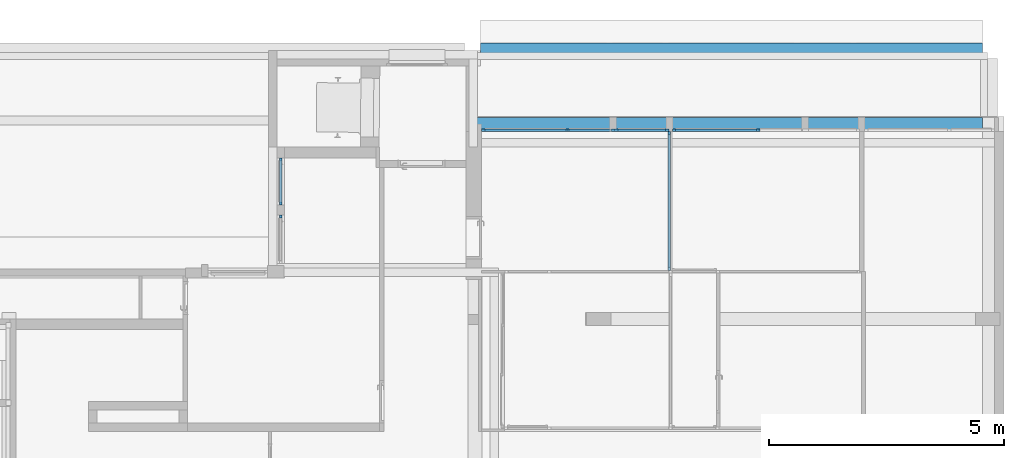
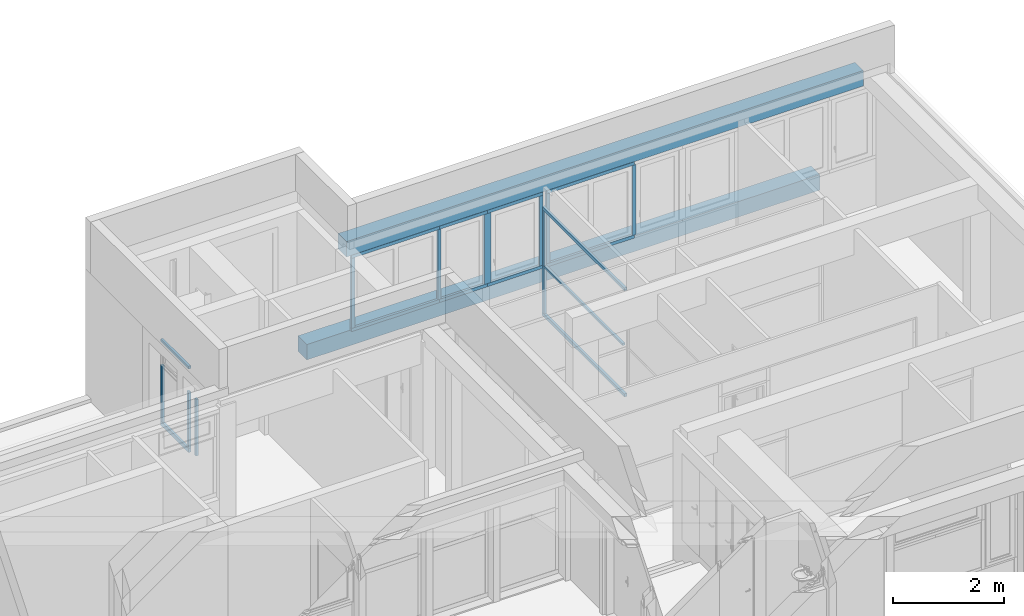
# One storey, part 10 of 49: 24 members, 2 beams, 5 elements without a shape of their own.
"""IFC4 building model written with IfcOpenShell, lengths in metres."""

from ifc_helpers import new_model, entity, si_unit, converted_unit, derived_unit, direction, frame, origin, place, context, subcontext, project, spatial, indexed_curve, outline, extrude, source, transform, mapped, material, type_object, type_shapes, element, aggregate, save


model = new_model("IFC4")

# Units and contexts
model_context = context("Model", 3, precision=1e-05, world=origin(), true_north=direction((6.12303176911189e-17, 1.0)))
body_context = subcontext(model_context, "Body", "Model", "MODEL_VIEW")
ifc_project = project(units=[si_unit("LENGTHUNIT", "METRE"), si_unit("AREAUNIT", "SQUARE_METRE"), si_unit("VOLUMEUNIT", "CUBIC_METRE"), converted_unit("PLANEANGLEUNIT", "DEGREE", entity("IfcRatioMeasure", 0.0174532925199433), si_unit("PLANEANGLEUNIT", "RADIAN"), dimensions=[0, 0, 0, 0, 0, 0, 0]), si_unit("MASSUNIT", "GRAM", prefix="KILO"), derived_unit("MASSDENSITYUNIT", [(si_unit("MASSUNIT", "GRAM", prefix="KILO"), 1), (si_unit("LENGTHUNIT", "METRE"), -3)]), derived_unit("MOMENTOFINERTIAUNIT", [(si_unit("LENGTHUNIT", "METRE"), 4)]), si_unit("TIMEUNIT", "SECOND"), si_unit("FREQUENCYUNIT", "HERTZ"), si_unit("THERMODYNAMICTEMPERATUREUNIT", "DEGREE_CELSIUS"), derived_unit("THERMALTRANSMITTANCEUNIT", [(si_unit("MASSUNIT", "GRAM", prefix="KILO"), 1), (si_unit("THERMODYNAMICTEMPERATUREUNIT", "KELVIN"), -1), (si_unit("TIMEUNIT", "SECOND"), -3)]), derived_unit("VOLUMETRICFLOWRATEUNIT", [(si_unit("LENGTHUNIT", "METRE"), 3), (si_unit("TIMEUNIT", "SECOND"), -1)]), si_unit("ELECTRICCURRENTUNIT", "AMPERE"), si_unit("ELECTRICVOLTAGEUNIT", "VOLT"), si_unit("POWERUNIT", "WATT"), si_unit("FORCEUNIT", "NEWTON", prefix="KILO"), si_unit("ILLUMINANCEUNIT", "LUX"), si_unit("LUMINOUSFLUXUNIT", "LUMEN"), si_unit("LUMINOUSINTENSITYUNIT", "CANDELA"), derived_unit("USERDEFINED", [(si_unit("MASSUNIT", "GRAM", prefix="KILO"), -1), (si_unit("LENGTHUNIT", "METRE"), -2), (si_unit("TIMEUNIT", "SECOND"), 3), (si_unit("LUMINOUSFLUXUNIT", "LUMEN"), 1)]), derived_unit("LINEARVELOCITYUNIT", [(si_unit("LENGTHUNIT", "METRE"), 1), (si_unit("TIMEUNIT", "SECOND"), -1)]), si_unit("PRESSUREUNIT", "PASCAL"), derived_unit("USERDEFINED", [(si_unit("LENGTHUNIT", "METRE"), -2), (si_unit("MASSUNIT", "GRAM", prefix="KILO"), 1), (si_unit("TIMEUNIT", "SECOND"), -2)]), derived_unit("LINEARFORCEUNIT", [(si_unit("MASSUNIT", "GRAM", prefix="KILO"), 1), (si_unit("LENGTHUNIT", "METRE"), 1), (si_unit("TIMEUNIT", "SECOND"), -2), (si_unit("LENGTHUNIT", "METRE"), -1)]), derived_unit("PLANARFORCEUNIT", [(si_unit("MASSUNIT", "GRAM", prefix="KILO"), 1), (si_unit("LENGTHUNIT", "METRE"), 1), (si_unit("TIMEUNIT", "SECOND"), -2), (si_unit("LENGTHUNIT", "METRE"), -2)])], contexts=[model_context])

# Site, building, storey
site_placement = place(None, origin())
site = spatial("IfcSite", under=ifc_project, at=site_placement, Name="Default", CompositionType="ELEMENT")
building_placement = place(site_placement, origin())
building = spatial("IfcBuilding", under=site, at=building_placement, Name="HOTEL CONSULAIRE BOULOGNE SUR MER", CompositionType="ELEMENT")
storey_placement = place(building_placement, frame((0.0, 0.0, 6.81974152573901)))
storey = spatial("IfcBuildingStorey", under=building, at=storey_placement, Name="Niveau 2", CompositionType="ELEMENT", Elevation=6.81974152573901)

# Beam
ifc_material_1 = material(Name="Béton - Béton coulé sur place", Category="Béton")
beam_type_1 = type_object("IfcBeamType", Name="Poutre rectangulaire - Béton:320x340", PredefinedType="BEAM", material=ifc_material_1)
shared_shape_1 = source(origin(), body_context, "Body", "SweptSolid", [
    extrude(outline(indexed_curve([(-0.170000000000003, -0.159999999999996), (0.169999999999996, -0.159999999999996), (0.170000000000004, 0.160000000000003), (-0.169999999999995, 0.160000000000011), (-0.170000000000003, -0.159999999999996)], self_intersect=False)), frame((11.6466382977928, -9.9146323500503, 6.46174152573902), z_axis=(1.0, 0.0, 0.0), x_axis=(0.0, 0.0, -1.0)), (0.0, 0.0, 1.0), 10.6903810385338),
])
type_shapes(beam_type_1, [shared_shape_1])
beam_1_placement = place(storey_placement, frame((0.0, 0.0, -6.81974152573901)))
element("IfcBeam", 1, at=beam_1_placement, inside=storey, type_object=beam_type_1, material=ifc_material_1, Name="Poutre rectangulaire - Béton:320x340", ObjectType="Poutre rectangulaire - Béton:320x340", PredefinedType="BEAM", context=body_context, shape_type="MappedRepresentation", body=[
    mapped(shared_shape_1, transform((0.0, 0.0, 0.0), scale=1.0)),
])

# Curtain wall, members
curtain_wall_type = type_object("IfcCurtainWallType", Name="Mur-rideau:Simple panneau", PredefinedType="NOTDEFINED")
curtain_wall_1_placement = place(storey_placement, frame((0.0, 0.0, -6.81974152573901)))
curtain_wall_1 = element("IfcCurtainWall", 2, at=curtain_wall_1_placement, inside=storey, type_object=curtain_wall_type, Name="Mur-rideau:Simple panneau", ObjectType="Mur-rideau:Simple panneau", PredefinedType="NOTDEFINED")
ifc_material_2 = material(Name="PVC, souple", Category="Plastique")
member_type_1 = type_object("IfcMemberType", Name="Meneau rectangulaire:50 x 35 pvc gris", PredefinedType="MULLION", material=ifc_material_2)
shared_shape_2 = source(origin(), body_context, "Body", "SweptSolid", [
    extrude(outline(indexed_curve([(-0.025, -0.035), (0.025, -0.035), (0.025, 0.035), (-0.025, 0.035), (-0.025, -0.035)], self_intersect=False)), frame((-0.035, -0.025, -1.54128724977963), z_axis=(0.0, 0.0, 1.0), x_axis=(0.0, -1.0, 0.0)), (0.0, 0.0, 1.0), 1.54128724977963),
])
type_shapes(member_type_1, [shared_shape_2])
member_1_placement = place(storey_placement, frame((15.661075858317, -11.5914237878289, 2.64699999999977)))
member_1 = element("IfcMember", 3, at=member_1_placement, type_object=member_type_1, material=ifc_material_2, Name="Meneau rectangulaire:50 x 35 pvc gris", ObjectType="Meneau rectangulaire:50 x 35 pvc gris", PredefinedType="MULLION", context=body_context, shape_type="MappedRepresentation", body=[
    mapped(shared_shape_2, transform((0.0, 0.0, 0.0), scale=1.0)),
])
member_type_2 = type_object("IfcMemberType", Name="Meneau rectangulaire:50 x 35 pvc gris", PredefinedType="MULLION", material=ifc_material_2)
shared_shape_3 = source(origin(), body_context, "Body", "SweptSolid", [
    extrude(outline(indexed_curve([(-0.025, -0.035), (0.025, -0.035), (0.025, 0.035), (-0.025, 0.035), (-0.025, -0.035)], self_intersect=False)), frame((-0.035, -0.025, -1.832), z_axis=(0.0, 0.0, 1.0), x_axis=(0.0, -1.0, 0.0)), (0.0, 0.0, 1.0), 1.832),
])
type_shapes(member_type_2, [shared_shape_3])
member_2_placement = place(storey_placement, frame((11.6709585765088, -11.5914237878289, 2.71699999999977), z_axis=(-1.0, 0.0, 0.0), x_axis=(0.0, 0.0, 1.0)))
member_2 = element("IfcMember", 4, at=member_2_placement, type_object=member_type_2, material=ifc_material_2, Name="Meneau rectangulaire:50 x 35 pvc gris", ObjectType="Meneau rectangulaire:50 x 35 pvc gris", PredefinedType="MULLION", context=body_context, shape_type="MappedRepresentation", body=[
    mapped(shared_shape_3, transform((0.0, 0.0, 0.0), scale=1.0)),
])

# Curtain wall, member
curtain_wall_2_placement = place(storey_placement, frame((0.0, 0.0, -6.81974152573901)))
curtain_wall_2 = element("IfcCurtainWall", 5, at=curtain_wall_2_placement, inside=storey, type_object=curtain_wall_type, Name="Mur-rideau:Simple panneau", ObjectType="Mur-rideau:Simple panneau", PredefinedType="NOTDEFINED")
member_3_placement = place(storey_placement, frame((15.7324052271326, -11.5914237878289, 2.71699999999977), z_axis=(-1.0, 0.0, 0.0), x_axis=(0.0, 0.0, 1.0)))
member_3 = element("IfcMember", 6, at=member_3_placement, type_object=member_type_2, material=ifc_material_2, Name="Meneau rectangulaire:50 x 35 pvc gris", ObjectType="Meneau rectangulaire:50 x 35 pvc gris", PredefinedType="MULLION", context=body_context, shape_type="MappedRepresentation", body=[
    mapped(shared_shape_3, transform((0.0, 0.0, 0.0), scale=1.0)),
])

# Member
member_type_3 = type_object("IfcMemberType", Name="Meneau rectangulaire:50 x 35 pvc gris", PredefinedType="MULLION", material=ifc_material_2)
shared_shape_4 = source(origin(), body_context, "Body", "SweptSolid", [
    extrude(outline(indexed_curve([(-0.025, -0.035), (0.025, -0.035), (0.025, 0.035), (-0.025, 0.035), (-0.025, -0.035)], self_intersect=False)), frame((-0.035, -0.025, -1.54128724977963), z_axis=(0.0, 0.0, 1.0), x_axis=(0.0, -1.0, 0.0)), (0.0, 0.0, 1.0), 1.54128724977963),
])
type_shapes(member_type_3, [shared_shape_4])
member_4_placement = place(storey_placement, frame((11.6709585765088, -11.5914237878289, 1.10571275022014), z_axis=(0.0, 0.0, -1.0), x_axis=(-1.0, 0.0, 0.0)))
member_4 = element("IfcMember", 7, at=member_4_placement, type_object=member_type_3, material=ifc_material_2, Name="Meneau rectangulaire:50 x 35 pvc gris", ObjectType="Meneau rectangulaire:50 x 35 pvc gris", PredefinedType="MULLION", context=body_context, shape_type="MappedRepresentation", body=[
    mapped(shared_shape_4, transform((0.0, 0.0, 0.0), scale=1.0)),
])

member_5_placement = place(storey_placement, frame((15.7324052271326, -11.5914237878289, 1.10571275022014), z_axis=(0.0, 0.0, -1.0), x_axis=(-1.0, 0.0, 0.0)))
member_5 = element("IfcMember", 8, at=member_5_placement, type_object=member_type_3, material=ifc_material_2, Name="Meneau rectangulaire:50 x 35 pvc gris", ObjectType="Meneau rectangulaire:50 x 35 pvc gris", PredefinedType="MULLION", context=body_context, shape_type="MappedRepresentation", body=[
    mapped(shared_shape_4, transform((0.0, 0.0, 0.0), scale=1.0)),
])

member_type_4 = type_object("IfcMemberType", Name="Meneau rectangulaire:50 x 35 pvc gris", PredefinedType="MULLION", material=ifc_material_2)
shared_shape_5 = source(origin(), body_context, "Body", "SweptSolid", [
    extrude(outline(indexed_curve([(-0.025, -0.035), (0.025, -0.035), (0.025, 0.035), (-0.025, 0.035), (-0.025, -0.035)], self_intersect=False)), frame((-0.035, -0.025, -1.15411728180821), z_axis=(0.0, 0.0, 1.0), x_axis=(0.0, -1.0, 0.0)), (0.0, 0.0, 1.0), 1.15411728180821),
])
type_shapes(member_type_4, [shared_shape_5])
member_6_placement = place(storey_placement, frame((15.661075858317, -11.5914237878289, 1.03571275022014), z_axis=(1.0, 0.0, 0.0), x_axis=(0.0, 0.0, -1.0)))
member_6 = element("IfcMember", 9, at=member_6_placement, type_object=member_type_4, material=ifc_material_2, Name="Meneau rectangulaire:50 x 35 pvc gris", ObjectType="Meneau rectangulaire:50 x 35 pvc gris", PredefinedType="MULLION", context=body_context, shape_type="MappedRepresentation", body=[
    mapped(shared_shape_5, transform((0.0, 0.0, 0.0), scale=1.0)),
])

member_type_5 = type_object("IfcMemberType", Name="Meneau rectangulaire:50 x 35 pvc gris", PredefinedType="MULLION", material=ifc_material_2)
shared_shape_6 = source(origin(), body_context, "Body", "SweptSolid", [
    extrude(outline(indexed_curve([(-0.025, -0.035), (0.025, -0.035), (0.025, 0.035), (-0.025, 0.035), (-0.025, -0.035)], self_intersect=False)), frame((0.0, -0.025, -1.54128724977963), z_axis=(0.0, 0.0, 1.0), x_axis=(0.0, -1.0, 0.0)), (0.0, 0.0, 1.0), 1.54128724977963),
])
type_shapes(member_type_5, [shared_shape_6])
member_7_placement = place(storey_placement, frame((13.5029585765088, -11.5914237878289, 1.10571275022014), z_axis=(0.0, 0.0, -1.0), x_axis=(-1.0, 0.0, 0.0)))
member_7 = element("IfcMember", 10, at=member_7_placement, type_object=member_type_5, material=ifc_material_2, Name="Meneau rectangulaire:50 x 35 pvc gris", ObjectType="Meneau rectangulaire:50 x 35 pvc gris", PredefinedType="MULLION", context=body_context, shape_type="MappedRepresentation", body=[
    mapped(shared_shape_6, transform((0.0, 0.0, 0.0), scale=1.0)),
])

member_8_placement = place(storey_placement, frame((17.5644052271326, -11.5914237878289, 1.10571275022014), z_axis=(0.0, 0.0, -1.0), x_axis=(-1.0, 0.0, 0.0)))
member_8 = element("IfcMember", 11, at=member_8_placement, type_object=member_type_5, material=ifc_material_2, Name="Meneau rectangulaire:50 x 35 pvc gris", ObjectType="Meneau rectangulaire:50 x 35 pvc gris", PredefinedType="MULLION", context=body_context, shape_type="MappedRepresentation", body=[
    mapped(shared_shape_6, transform((0.0, 0.0, 0.0), scale=1.0)),
])

member_type_6 = type_object("IfcMemberType", Name="Meneau rectangulaire:50 x 65 pvc gris", PredefinedType="MULLION", material=ifc_material_2)
shared_shape_7 = source(origin(), body_context, "Body", "SweptSolid", [
    extrude(outline(indexed_curve([(-0.025, -0.065), (0.025, -0.065), (0.025, 0.065), (-0.025, 0.065), (-0.025, -0.065)], self_intersect=False)), frame((0.0, -0.025, -1.54128724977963), z_axis=(0.0, 0.0, 1.0), x_axis=(0.0, -1.0, 0.0)), (0.0, 0.0, 1.0), 1.54128724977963),
])
type_shapes(member_type_6, [shared_shape_7])
member_9_placement = place(storey_placement, frame((14.5069585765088, -11.5914237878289, 1.10571275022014), z_axis=(0.0, 0.0, -1.0), x_axis=(-1.0, 0.0, 0.0)))
member_9 = element("IfcMember", 12, at=member_9_placement, type_object=member_type_6, material=ifc_material_2, Name="Meneau rectangulaire:50 x 65 pvc gris", ObjectType="Meneau rectangulaire:50 x 65 pvc gris", PredefinedType="MULLION", context=body_context, shape_type="MappedRepresentation", body=[
    mapped(shared_shape_7, transform((0.0, 0.0, 0.0), scale=1.0)),
])

member_type_7 = type_object("IfcMemberType", Name="Meneau rectangulaire:50 x 35 pvc gris", PredefinedType="MULLION", material=ifc_material_2)
shared_shape_8 = source(origin(), body_context, "Body", "SweptSolid", [
    extrude(outline(indexed_curve([(-0.025, -0.035), (0.025, -0.035), (0.025, 0.035), (-0.025, 0.035), (-0.025, -0.035)], self_intersect=False)), frame((-0.035, -0.025, -1.832), z_axis=(0.0, 0.0, 1.0), x_axis=(0.0, -1.0, 0.0)), (0.0, 0.0, 1.0), 1.832),
])
type_shapes(member_type_7, [shared_shape_8])
member_10_placement = place(storey_placement, frame((13.5029585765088, -11.5914237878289, 1.03571275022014), z_axis=(1.0, 0.0, 0.0), x_axis=(0.0, 0.0, -1.0)))
member_10 = element("IfcMember", 13, at=member_10_placement, type_object=member_type_7, material=ifc_material_2, Name="Meneau rectangulaire:50 x 35 pvc gris", ObjectType="Meneau rectangulaire:50 x 35 pvc gris", PredefinedType="MULLION", context=body_context, shape_type="MappedRepresentation", body=[
    mapped(shared_shape_8, transform((0.0, 0.0, 0.0), scale=1.0)),
])

member_11_placement = place(storey_placement, frame((17.5644052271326, -11.5914237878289, 1.03571275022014), z_axis=(1.0, 0.0, 0.0), x_axis=(0.0, 0.0, -1.0)))
member_11 = element("IfcMember", 14, at=member_11_placement, type_object=member_type_7, material=ifc_material_2, Name="Meneau rectangulaire:50 x 35 pvc gris", ObjectType="Meneau rectangulaire:50 x 35 pvc gris", PredefinedType="MULLION", context=body_context, shape_type="MappedRepresentation", body=[
    mapped(shared_shape_8, transform((0.0, 0.0, 0.0), scale=1.0)),
])

aggregate(curtain_wall_2, [member_3, member_5, member_8, member_11])

member_type_8 = type_object("IfcMemberType", Name="Meneau rectangulaire:50 x 35 pvc gris", PredefinedType="MULLION", material=ifc_material_2)
shared_shape_9 = source(origin(), body_context, "Body", "SweptSolid", [
    extrude(outline(indexed_curve([(-0.025, -0.035), (0.025, -0.035), (0.025, 0.035), (-0.025, 0.035), (-0.025, -0.035)], self_intersect=False)), frame((-0.035, -0.025, -1.004), z_axis=(0.0, 0.0, 1.0), x_axis=(0.0, -1.0, 0.0)), (0.0, 0.0, 1.0), 1.004),
])
type_shapes(member_type_8, [shared_shape_9])
member_12_placement = place(storey_placement, frame((14.5069585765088, -11.5914237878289, 1.03571275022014), z_axis=(1.0, 0.0, 0.0), x_axis=(0.0, 0.0, -1.0)))
member_12 = element("IfcMember", 15, at=member_12_placement, type_object=member_type_8, material=ifc_material_2, Name="Meneau rectangulaire:50 x 35 pvc gris", ObjectType="Meneau rectangulaire:50 x 35 pvc gris", PredefinedType="MULLION", context=body_context, shape_type="MappedRepresentation", body=[
    mapped(shared_shape_9, transform((0.0, 0.0, 0.0), scale=1.0)),
])

member_type_9 = type_object("IfcMemberType", Name="Meneau rectangulaire:50 x 35 pvc gris", PredefinedType="MULLION", material=ifc_material_2)
shared_shape_10 = source(origin(), body_context, "Body", "SweptSolid", [
    extrude(outline(indexed_curve([(-0.025, -0.035), (0.025, -0.035), (0.025, 0.035), (-0.025, 0.035), (-0.025, -0.035)], self_intersect=False)), frame((-0.035, -0.025, -1.004), z_axis=(0.0, 0.0, 1.0), x_axis=(0.0, -1.0, 0.0)), (0.0, 0.0, 1.0), 1.004),
])
type_shapes(member_type_9, [shared_shape_10])
member_13_placement = place(storey_placement, frame((13.5029585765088, -11.5914237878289, 2.71699999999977), z_axis=(-1.0, 0.0, 0.0), x_axis=(0.0, 0.0, 1.0)))
member_13 = element("IfcMember", 16, at=member_13_placement, type_object=member_type_9, material=ifc_material_2, Name="Meneau rectangulaire:50 x 35 pvc gris", ObjectType="Meneau rectangulaire:50 x 35 pvc gris", PredefinedType="MULLION", context=body_context, shape_type="MappedRepresentation", body=[
    mapped(shared_shape_10, transform((0.0, 0.0, 0.0), scale=1.0)),
])

member_type_10 = type_object("IfcMemberType", Name="Meneau rectangulaire:50 x 35 pvc gris", PredefinedType="MULLION", material=ifc_material_2)
shared_shape_11 = source(origin(), body_context, "Body", "SweptSolid", [
    extrude(outline(indexed_curve([(-0.025, -0.035), (0.025, -0.035), (0.025, 0.035), (-0.025, 0.035), (-0.025, -0.035)], self_intersect=False)), frame((-0.035, -0.025, -1.15411728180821), z_axis=(0.0, 0.0, 1.0), x_axis=(0.0, -1.0, 0.0)), (0.0, 0.0, 1.0), 1.15411728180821),
])
type_shapes(member_type_10, [shared_shape_11])
member_14_placement = place(storey_placement, frame((14.5069585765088, -11.5914237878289, 2.71699999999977), z_axis=(-1.0, 0.0, 0.0), x_axis=(0.0, 0.0, 1.0)))
member_14 = element("IfcMember", 17, at=member_14_placement, type_object=member_type_10, material=ifc_material_2, Name="Meneau rectangulaire:50 x 35 pvc gris", ObjectType="Meneau rectangulaire:50 x 35 pvc gris", PredefinedType="MULLION", context=body_context, shape_type="MappedRepresentation", body=[
    mapped(shared_shape_11, transform((0.0, 0.0, 0.0), scale=1.0)),
])

aggregate(curtain_wall_1, [member_1, member_2, member_4, member_6, member_7, member_9, member_10, member_12, member_13, member_14])

# Beam
beam_type_2 = type_object("IfcBeamType", Name="Poutre rectangulaire - Béton:300x340", PredefinedType="BEAM", material=ifc_material_1)
shared_shape_12 = source(origin(), body_context, "Body", "SweptSolid", [
    extrude(outline(indexed_curve([(-0.170000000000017, -0.14999999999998), (0.169999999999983, -0.14999999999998), (0.170000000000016, 0.150000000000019), (-0.169999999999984, 0.150000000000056), (-0.170000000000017, -0.14999999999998)], self_intersect=False)), frame((11.5685984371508, -11.4864237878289, 9.70174152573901), z_axis=(1.0, 0.0, 0.0), x_axis=(0.0, 0.0, -1.0)), (0.0, 0.0, 1.0), 10.770039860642),
])
type_shapes(beam_type_2, [shared_shape_12])
beam_2_placement = place(storey_placement, frame((0.0, 0.0, -6.81974152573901)))
element("IfcBeam", 18, at=beam_2_placement, inside=storey, type_object=beam_type_2, material=ifc_material_1, Name="Poutre rectangulaire - Béton:300x340", ObjectType="Poutre rectangulaire - Béton:300x340", PredefinedType="BEAM", context=body_context, shape_type="MappedRepresentation", body=[
    mapped(shared_shape_12, transform((0.0, 0.0, 0.0), scale=1.0)),
])

# Curtain wall, members
curtain_wall_3_placement = place(storey_placement, frame((0.0, 0.0, -6.81974152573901)))
curtain_wall_3 = element("IfcCurtainWall", 19, at=curtain_wall_3_placement, inside=storey, type_object=curtain_wall_type, Name="Mur-rideau:Simple panneau", ObjectType="Mur-rideau:Simple panneau", PredefinedType="NOTDEFINED")
ifc_material_3 = material(Name="PVC - Blanc", Category="Plastique")
member_type_11 = type_object("IfcMemberType", Name="Meneau rectangulaire:50 x 35", PredefinedType="MULLION", material=ifc_material_3)
shared_shape_13 = source(origin(), body_context, "Body", "SweptSolid", [
    extrude(outline(indexed_curve([(-0.025, -0.035), (0.025, -0.035), (0.025, 0.035), (-0.025, 0.035), (-0.025, -0.035)], self_intersect=False)), frame((-0.035, -0.025, -1.041), z_axis=(0.0, 0.0, 1.0), x_axis=(0.0, -1.0, 0.0)), (0.0, 0.0, 1.0), 1.041),
])
type_shapes(member_type_11, [shared_shape_13])
member_15_placement = place(storey_placement, frame((15.696075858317, -11.6364237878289, 0.0700000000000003), z_axis=(0.0, 0.0, -1.0), x_axis=(0.0, 1.0, 0.0)))
member_15 = element("IfcMember", 20, at=member_15_placement, type_object=member_type_11, material=ifc_material_3, Name="Meneau rectangulaire:50 x 35", ObjectType="Meneau rectangulaire:50 x 35", PredefinedType="MULLION", context=body_context, shape_type="MappedRepresentation", body=[
    mapped(shared_shape_13, transform((0.0, 0.0, 0.0), scale=1.0)),
])
member_type_12 = type_object("IfcMemberType", Name="Meneau rectangulaire:50 x 35", PredefinedType="MULLION", material=ifc_material_3)
shared_shape_14 = source(origin(), body_context, "Body", "SweptSolid", [
    extrude(outline(indexed_curve([(-0.025, -0.035), (0.025, -0.035), (0.025, 0.035), (-0.025, 0.035), (-0.025, -0.035)], self_intersect=False)), frame((-0.035, -0.025, -1.221), z_axis=(0.0, 0.0, 1.0), x_axis=(0.0, -1.0, 0.0)), (0.0, 0.0, 1.0), 1.221),
])
type_shapes(member_type_12, [shared_shape_14])
member_16_placement = place(storey_placement, frame((15.696075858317, -11.6364237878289, 1.111), z_axis=(0.0, 0.0, -1.0), x_axis=(0.0, 1.0, 0.0)))
member_16 = element("IfcMember", 21, at=member_16_placement, type_object=member_type_12, material=ifc_material_3, Name="Meneau rectangulaire:50 x 35", ObjectType="Meneau rectangulaire:50 x 35", PredefinedType="MULLION", context=body_context, shape_type="MappedRepresentation", body=[
    mapped(shared_shape_14, transform((0.0, 0.0, 0.0), scale=1.0)),
])

# Curtain wall, member
curtain_wall_4_placement = place(storey_placement, frame((0.0, 0.0, -6.81974152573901)))
curtain_wall_4 = element("IfcCurtainWall", 22, at=curtain_wall_4_placement, inside=storey, type_object=curtain_wall_type, Name="Mur-rideau:Simple panneau", ObjectType="Mur-rideau:Simple panneau", PredefinedType="NOTDEFINED")
member_type_13 = type_object("IfcMemberType", Name="Meneau rectangulaire:50 x 30", PredefinedType="MULLION", material=ifc_material_3)
shared_shape_15 = source(origin(), body_context, "Body", "SweptSolid", [
    extrude(outline(indexed_curve([(-0.025, -0.03), (0.025, -0.03), (0.025, 0.03), (-0.025, 0.03), (-0.025, -0.03)], self_intersect=False)), frame((-0.03, -0.025, -1.244), z_axis=(0.0, 0.0, 1.0), x_axis=(0.0, -1.0, 0.0)), (0.0, 0.0, 1.0), 1.244),
])
type_shapes(member_type_13, [shared_shape_15])
member_17_placement = place(storey_placement, frame((7.3689802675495, -13.4199109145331, 2.15873410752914), z_axis=(0.0, 0.0, 1.0), x_axis=(0.0, 1.0, 0.0)))
member_17 = element("IfcMember", 23, at=member_17_placement, type_object=member_type_13, material=ifc_material_3, Name="Meneau rectangulaire:50 x 30", ObjectType="Meneau rectangulaire:50 x 30", PredefinedType="MULLION", context=body_context, shape_type="MappedRepresentation", body=[
    mapped(shared_shape_15, transform((0.0, 0.0, 0.0), scale=1.0)),
])
aggregate(curtain_wall_4, [member_17])

# Curtain wall, members
curtain_wall_5_placement = place(storey_placement, frame((0.0, 0.0, -6.81974152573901)))
curtain_wall_5 = element("IfcCurtainWall", 24, at=curtain_wall_5_placement, inside=storey, type_object=curtain_wall_type, Name="Mur-rideau:Simple panneau", ObjectType="Mur-rideau:Simple panneau", PredefinedType="NOTDEFINED")
member_18_placement = place(storey_placement, frame((7.3689802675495, -12.2007913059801, 2.15873410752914), z_axis=(0.0, 0.0, 1.0), x_axis=(0.0, 1.0, 0.0)))
member_18 = element("IfcMember", 25, at=member_18_placement, type_object=member_type_13, material=ifc_material_3, Name="Meneau rectangulaire:50 x 30", ObjectType="Meneau rectangulaire:50 x 30", PredefinedType="MULLION", context=body_context, shape_type="MappedRepresentation", body=[
    mapped(shared_shape_15, transform((0.0, 0.0, 0.0), scale=1.0)),
])
member_type_14 = type_object("IfcMemberType", Name="Meneau rectangulaire:50 x 30", PredefinedType="MULLION", material=ifc_material_3)
shared_shape_16 = source(origin(), body_context, "Body", "SweptSolid", [
    extrude(outline(indexed_curve([(-0.025, -0.03), (0.025, -0.03), (0.025, 0.03), (-0.025, 0.03), (-0.025, -0.03)], self_intersect=False)), frame((-0.03, -0.025, -1.244), z_axis=(0.0, 0.0, 1.0), x_axis=(0.0, -1.0, 0.0)), (0.0, 0.0, 1.0), 1.244),
])
type_shapes(member_type_14, [shared_shape_16])
member_19_placement = place(storey_placement, frame((7.3689802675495, -13.2055363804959, 0.914734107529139), z_axis=(0.0, 0.0, -1.0), x_axis=(0.0, -1.0, 0.0)))
member_19 = element("IfcMember", 26, at=member_19_placement, type_object=member_type_14, material=ifc_material_3, Name="Meneau rectangulaire:50 x 30", ObjectType="Meneau rectangulaire:50 x 30", PredefinedType="MULLION", context=body_context, shape_type="MappedRepresentation", body=[
    mapped(shared_shape_16, transform((0.0, 0.0, 0.0), scale=1.0)),
])
member_type_15 = type_object("IfcMemberType", Name="Meneau rectangulaire:50 x 45", PredefinedType="MULLION", material=ifc_material_3)
shared_shape_17 = source(origin(), body_context, "Body", "SweptSolid", [
    extrude(outline(indexed_curve([(-0.025, -0.045), (0.025, -0.045), (0.025, 0.045), (-0.025, 0.045), (-0.025, -0.045)], self_intersect=False)), frame((-0.045, -0.025, -1.00474507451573), z_axis=(0.0, 0.0, 1.0), x_axis=(0.0, -1.0, 0.0)), (0.0, 0.0, 1.0), 1.00474507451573),
])
type_shapes(member_type_15, [shared_shape_17])
member_20_placement = place(storey_placement, frame((7.3689802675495, -12.2007913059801, 0.824734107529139), z_axis=(0.0, 1.0, 0.0), x_axis=(0.0, 0.0, -1.0)))
member_20 = element("IfcMember", 27, at=member_20_placement, type_object=member_type_15, material=ifc_material_3, Name="Meneau rectangulaire:50 x 45", ObjectType="Meneau rectangulaire:50 x 45", PredefinedType="MULLION", context=body_context, shape_type="MappedRepresentation", body=[
    mapped(shared_shape_17, transform((0.0, 0.0, 0.0), scale=1.0)),
])
member_type_16 = type_object("IfcMemberType", Name="Meneau rectangulaire:50 x 30", PredefinedType="MULLION", material=ifc_material_3)
shared_shape_18 = source(origin(), body_context, "Body", "SweptSolid", [
    extrude(outline(indexed_curve([(-0.025, -0.03), (0.025, -0.03), (0.025, 0.03), (-0.025, 0.03), (-0.025, -0.03)], self_intersect=False)), frame((-0.03, -0.025, -1.00474507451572), z_axis=(0.0, 0.0, 1.0), x_axis=(0.0, -1.0, 0.0)), (0.0, 0.0, 1.0), 1.00474507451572),
])
type_shapes(member_type_16, [shared_shape_18])
member_21_placement = place(storey_placement, frame((7.3689802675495, -13.2055363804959, 2.72473410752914), z_axis=(0.0, -1.0, 0.0), x_axis=(0.0, 0.0, 1.0)))
member_21 = element("IfcMember", 28, at=member_21_placement, type_object=member_type_16, material=ifc_material_3, Name="Meneau rectangulaire:50 x 30", ObjectType="Meneau rectangulaire:50 x 30", PredefinedType="MULLION", context=body_context, shape_type="MappedRepresentation", body=[
    mapped(shared_shape_18, transform((0.0, 0.0, 0.0), scale=1.0)),
])
aggregate(curtain_wall_5, [member_18, member_19, member_20, member_21])

# Member
member_type_17 = type_object("IfcMemberType", Name="Meneau rectangulaire:50 x 35", PredefinedType="MULLION", material=ifc_material_3)
shared_shape_19 = source(origin(), body_context, "Body", "SweptSolid", [
    extrude(outline(indexed_curve([(-0.025, -0.035), (0.025, -0.035), (0.025, 0.035), (-0.025, 0.035), (-0.025, -0.035)], self_intersect=False)), frame((-0.035, -0.025, -2.96500000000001), z_axis=(0.0, 0.0, 1.0), x_axis=(0.0, -1.0, 0.0)), (0.0, 0.0, 1.0), 2.96500000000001),
])
type_shapes(member_type_17, [shared_shape_19])
member_22_placement = place(storey_placement, frame((15.696075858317, -11.6364237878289, 2.402), z_axis=(0.0, 1.0, 0.0), x_axis=(0.0, 0.0, 1.0)))
member_22 = element("IfcMember", 29, at=member_22_placement, type_object=member_type_17, material=ifc_material_3, Name="Meneau rectangulaire:50 x 35", ObjectType="Meneau rectangulaire:50 x 35", PredefinedType="MULLION", context=body_context, shape_type="MappedRepresentation", body=[
    mapped(shared_shape_19, transform((0.0, 0.0, 0.0), scale=1.0)),
])

member_type_18 = type_object("IfcMemberType", Name="Meneau rectangulaire:50 x 35", PredefinedType="MULLION", material=ifc_material_3)
shared_shape_20 = source(origin(), body_context, "Body", "SweptSolid", [
    extrude(outline(indexed_curve([(-0.025, -0.035), (0.025, -0.035), (0.025, 0.035), (-0.025, 0.035), (-0.025, -0.035)], self_intersect=False)), frame((-0.035, -0.025, -2.96500000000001), z_axis=(0.0, 0.0, 1.0), x_axis=(0.0, -1.0, 0.0)), (0.0, 0.0, 1.0), 2.96500000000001),
])
type_shapes(member_type_18, [shared_shape_20])
member_23_placement = place(storey_placement, frame((15.696075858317, -14.6014237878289, 0.0), z_axis=(0.0, -1.0, 0.0), x_axis=(0.0, 0.0, -1.0)))
member_23 = element("IfcMember", 30, at=member_23_placement, type_object=member_type_18, material=ifc_material_3, Name="Meneau rectangulaire:50 x 35", ObjectType="Meneau rectangulaire:50 x 35", PredefinedType="MULLION", context=body_context, shape_type="MappedRepresentation", body=[
    mapped(shared_shape_20, transform((0.0, 0.0, 0.0), scale=1.0)),
])

member_type_19 = type_object("IfcMemberType", Name="Meneau rectangulaire:50 x 25mm", PredefinedType="MULLION", material=ifc_material_3)
shared_shape_21 = source(origin(), body_context, "Body", "SweptSolid", [
    extrude(outline(indexed_curve([(-0.025, -0.025), (0.025, -0.025), (0.025, 0.025), (-0.025, 0.025), (-0.025, -0.025)], self_intersect=False)), frame((0.0, -0.025, -2.82500000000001), z_axis=(0.0, 0.0, 1.0), x_axis=(0.0, -1.0, 0.0)), (0.0, 0.0, 1.0), 2.82500000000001),
])
type_shapes(member_type_19, [shared_shape_21])
member_24_placement = place(storey_placement, frame((15.696075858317, -11.7064237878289, 1.111), z_axis=(0.0, 1.0, 0.0), x_axis=(0.0, 0.0, 1.0)))
member_24 = element("IfcMember", 31, at=member_24_placement, type_object=member_type_19, material=ifc_material_3, Name="Meneau rectangulaire:50 x 25mm", ObjectType="Meneau rectangulaire:50 x 25mm", PredefinedType="MULLION", context=body_context, shape_type="MappedRepresentation", body=[
    mapped(shared_shape_21, transform((0.0, 0.0, 0.0), scale=1.0)),
])

aggregate(curtain_wall_3, [member_22, member_15, member_23, member_24, member_16])

save(model, "model.ifc")
